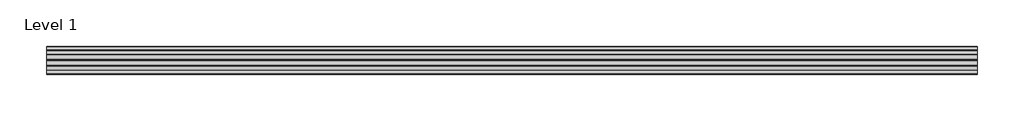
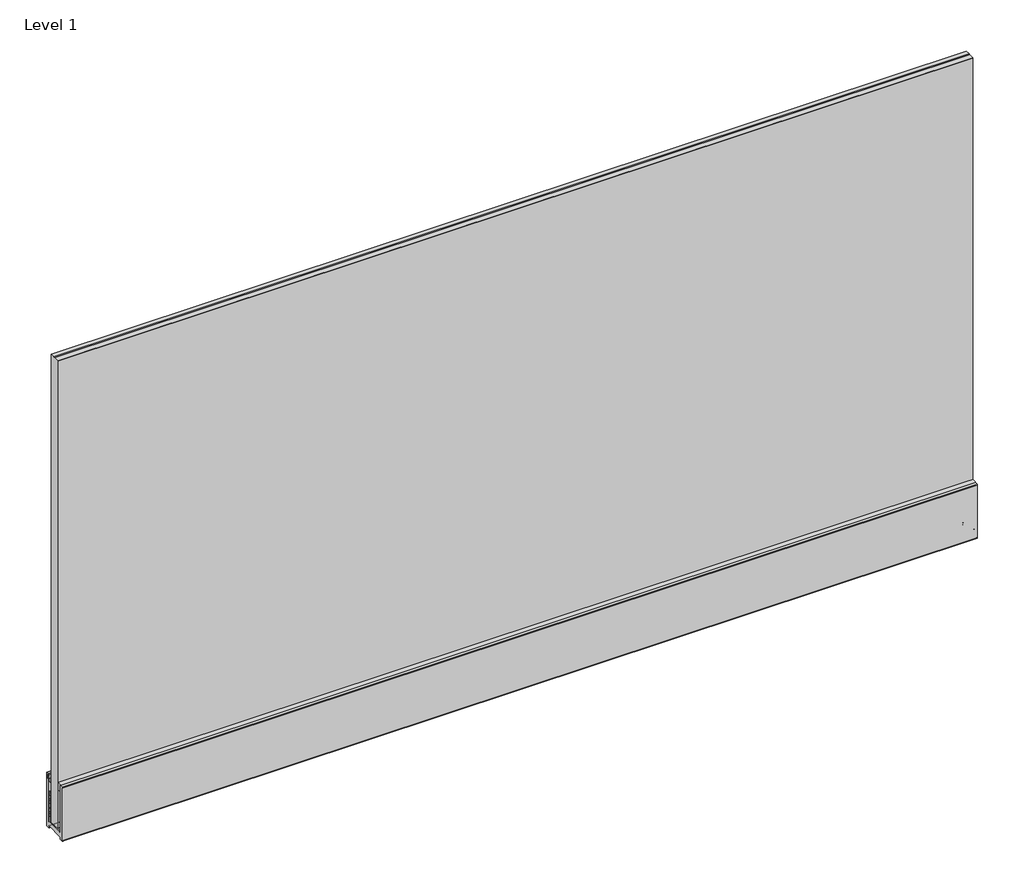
# One storey: 1 railing.
"""IFC4 building model written with IfcOpenShell, lengths in millimetres."""

import ifcopenshell
import ifcopenshell.guid

model = None  # the IFC model being written
_history = None  # IfcOwnerHistory: only IFC2X3 demands one
_inside = {}  # id of a spatial element -> (the spatial element, [elements in it])
_under = {}  # id of a project, library or spatial element -> (it, [spatial elements below it])
_declared = {}  # id of a project -> (the project, [libraries it declares])
_typed = {}  # id of a type object -> (the type object, [elements of that type])
_made_of = {}  # id of a material, layer set ... -> (it, [elements and type objects made of it])


def new_model(schema):
    """Start an empty IFC model of exactly this schema.

    Asked for "IFC4X3", IfcOpenShell would pick the latest addendum, in which some entities
    have other attributes; the version numbers below select the first issue.
    IFC2X3 requires an IfcOwnerHistory on every rooted entity: one is made here for all.
    """
    global model, _history
    if schema == "IFC4X3":
        model = ifcopenshell.file(schema_version=(4, 3, 0, 0))
    else:
        model = ifcopenshell.file(schema=schema)
    _inside.clear()
    _under.clear()
    _declared.clear()
    _typed.clear()
    _made_of.clear()
    _history = None
    if model.schema == "IFC2X3":
        org = make("IfcOrganization", Name="unknown")
        user = make(
            "IfcPersonAndOrganization",
            ThePerson=make("IfcPerson", FamilyName="unknown"),
            TheOrganization=org,
        )
        app = make(
            "IfcApplication",
            ApplicationDeveloper=org,
            Version="unknown",
            ApplicationFullName="unknown",
            ApplicationIdentifier="unknown",
        )
        _history = make(
            "IfcOwnerHistory",
            OwningUser=user,
            OwningApplication=app,
            ChangeAction="ADDED",
            CreationDate=0,
        )
    return model


def make(cls, **values):
    """One entity of the class cls with the attributes given. An attribute that is None is left unset."""
    return model.create_entity(
        cls, **{name: value for name, value in values.items() if value is not None}
    )


def rooted(cls, **values):
    """An entity with a GlobalId (a new one), such as an element, a storey or a relation."""
    return make(cls, GlobalId=ifcopenshell.guid.new(), OwnerHistory=_history, **values)


def si_unit(unit_type, name, prefix=None):
    """IfcSIUnit, for example si_unit("LENGTHUNIT", "METRE", prefix="MILLI")."""
    return make("IfcSIUnit", UnitType=unit_type, Prefix=prefix, Name=name)


def assignment(units):
    """IfcUnitAssignment: the units of a project."""
    return None if units is None else make("IfcUnitAssignment", Units=units)


def point(xyz):
    """IfcCartesianPoint."""
    return None if xyz is None else make("IfcCartesianPoint", Coordinates=xyz)


def direction(xyz):
    """IfcDirection."""
    return None if xyz is None else make("IfcDirection", DirectionRatios=xyz)


def frame(location, z_axis=None, x_axis=None):
    """IfcAxis2Placement3D, a coordinate frame: its origin and axes. An axis left out is left unset."""
    return make(
        "IfcAxis2Placement3D",
        Location=point(location),
        Axis=direction(z_axis),
        RefDirection=direction(x_axis),
    )


def frame_2d(location, x_axis=None):
    """IfcAxis2Placement2D, a coordinate frame in the plane: its origin and x axis."""
    return make(
        "IfcAxis2Placement2D", Location=point(location), RefDirection=direction(x_axis)
    )


def origin():
    """The frame at (0, 0, 0) with its axes left unset."""
    return frame((0.0, 0.0, 0.0))


def place(relative_to, where):
    """IfcLocalPlacement: puts the frame where relative to a parent placement (None: the world)."""
    return make(
        "IfcLocalPlacement", PlacementRelTo=relative_to, RelativePlacement=where
    )


def context(
    kind, dimensions, precision=None, world=None, true_north=None, identifier=None
):
    """IfcGeometricRepresentationContext, for example the 3D "Model" context."""
    return make(
        "IfcGeometricRepresentationContext",
        ContextIdentifier=identifier,
        ContextType=kind,
        CoordinateSpaceDimension=dimensions,
        Precision=precision,
        WorldCoordinateSystem=world,
        TrueNorth=true_north,
    )


def project(units=None, contexts=None):
    """IfcProject with its units and contexts."""
    return rooted(
        "IfcProject",
        Name="project",
        RepresentationContexts=contexts,
        UnitsInContext=assignment(units),
    )


def spatial(cls, under=None, at=None, **own):
    """A site, building, storey or space (cls), placed at a placement, below another one or the project."""
    s = rooted(cls, ObjectPlacement=at, **own)
    if under is not None:
        _under.setdefault(under.id(), (under, []))[1].append(s)
    return s


def polyline(points):
    """IfcPolyline through the points."""
    return make("IfcPolyline", Points=[point(p) for p in points])


def circle_curve(where, radius):
    """IfcCircle in the frame where."""
    return make("IfcCircle", Position=where, Radius=radius)


def trimmed(basis, trim1, trim2, sense, master):
    """IfcTrimmedCurve: the piece of a basis curve between two trims."""
    return make(
        "IfcTrimmedCurve",
        BasisCurve=basis,
        Trim1=trim1,
        Trim2=trim2,
        SenseAgreement=sense,
        MasterRepresentation=master,
    )


def segment(curve, same_sense, transition):
    """IfcCompositeCurveSegment."""
    return make(
        "IfcCompositeCurveSegment",
        Transition=transition,
        SameSense=same_sense,
        ParentCurve=curve,
    )


def composite_curve(segments, self_intersect=None):
    """IfcCompositeCurve: segments joined end to end."""
    return make("IfcCompositeCurve", Segments=segments, SelfIntersect=self_intersect)


def outline(outer, holes=None, kind="AREA"):
    """IfcArbitraryClosedProfileDef: a profile drawn as a closed curve; with holes, ...WithVoids."""
    if holes is None:
        return make("IfcArbitraryClosedProfileDef", ProfileType=kind, OuterCurve=outer)
    return make(
        "IfcArbitraryProfileDefWithVoids",
        ProfileType=kind,
        OuterCurve=outer,
        InnerCurves=holes,
    )


def extrude(swept, where, along, depth):
    """IfcExtrudedAreaSolid: the profile swept, set in the frame where, extruded along a direction by depth."""
    return make(
        "IfcExtrudedAreaSolid",
        SweptArea=swept,
        Position=where,
        ExtrudedDirection=direction(along),
        Depth=depth,
    )


def shape(context_of_items, identifier, shape_type, items):
    """IfcShapeRepresentation: the items that make up one representation, for example the "Body"."""
    return make(
        "IfcShapeRepresentation",
        ContextOfItems=context_of_items,
        RepresentationIdentifier=identifier,
        RepresentationType=shape_type,
        Items=items,
    )


def source(mapping_origin, context_of_items, identifier, shape_type, items):
    """IfcRepresentationMap: a shape defined once, which mapped items show again and again."""
    return make(
        "IfcRepresentationMap",
        MappingOrigin=mapping_origin,
        MappedRepresentation=shape(context_of_items, identifier, shape_type, items),
    )


def transform(
    local_origin,
    x_axis=None,
    y_axis=None,
    z_axis=None,
    scale=None,
    scale2=None,
    scale3=None,
    uniform=True,
):
    """IfcCartesianTransformationOperator3D, or its non-uniform kind. x_axis, y_axis, z_axis: its Axis1, 2, 3."""
    if uniform:
        return make(
            "IfcCartesianTransformationOperator3D",
            Axis1=direction(x_axis),
            Axis2=direction(y_axis),
            LocalOrigin=point(local_origin),
            Scale=scale,
            Axis3=direction(z_axis),
        )
    return make(
        "IfcCartesianTransformationOperator3DnonUniform",
        Axis1=direction(x_axis),
        Axis2=direction(y_axis),
        LocalOrigin=point(local_origin),
        Scale=scale,
        Axis3=direction(z_axis),
        Scale2=scale2,
        Scale3=scale3,
    )


def mapped(mapping_source, mapping_target):
    """IfcMappedItem: shows the shape of a source again, moved by a transform."""
    return make(
        "IfcMappedItem", MappingSource=mapping_source, MappingTarget=mapping_target
    )


def made_of(thing, what):
    """Note that an element or type object is made of a material, layer set ...; save() writes the relation."""
    if what is not None:
        _made_of.setdefault(what.id(), (what, []))[1].append(thing)
    return thing


def element(
    cls,
    number,
    at=None,
    inside=None,
    cuts=None,
    type_object=None,
    material=None,
    context=None,
    identifier="Body",
    shape_type=None,
    held_by="IfcProductDefinitionShape",
    body=None,
    shapes=None,
    **own,
):
    """One element of the class cls, such as IfcWall. Its Tag is "e" and its number.

    at: its placement. inside: the storey or other place that contains it. cuts: it is an
    opening in that element (IfcRelVoidsElement). A single representation is given by context,
    identifier, shape_type and body (its items); several are given by shapes. held_by: the class
    of the entity that holds the representations. save() writes the other relations.
    """
    e = rooted(cls, Tag="e%d" % number, ObjectPlacement=at, **own)
    if body is not None:
        shapes = [shape(context, identifier, shape_type, body)]
    if shapes is not None:
        e.Representation = make(held_by, Representations=shapes)
    if inside is not None:
        _inside.setdefault(inside.id(), (inside, []))[1].append(e)
    if cuts is not None:
        rooted(
            "IfcRelVoidsElement", RelatingBuildingElement=cuts, RelatedOpeningElement=e
        )
    if type_object is not None:
        _typed.setdefault(type_object.id(), (type_object, []))[1].append(e)
    return made_of(e, material)


def aggregate(whole, parts):
    """IfcRelAggregates: a whole, such as a stair, and the parts it consists of."""
    return rooted("IfcRelAggregates", RelatingObject=whole, RelatedObjects=parts)


def save(model, path):
    """Write the relations noted so far, then the file.

    IfcRelAggregates (storeys below a building ...), IfcRelContainedInSpatialStructure (elements
    in a storey), IfcRelDefinesByType, IfcRelAssociatesMaterial and IfcRelDeclares: one each for
    every whole, place, type object, material and project.
    """
    for whole, parts in _under.values():
        aggregate(whole, parts)
    for where, things in _inside.values():
        rooted(
            "IfcRelContainedInSpatialStructure",
            RelatedElements=things,
            RelatingStructure=where,
        )
    for kind, things in _typed.values():
        rooted("IfcRelDefinesByType", RelatedObjects=things, RelatingType=kind)
    for what, things in _made_of.values():
        rooted("IfcRelAssociatesMaterial", RelatedObjects=things, RelatingMaterial=what)
    for by, libraries in _declared.values():
        rooted("IfcRelDeclares", RelatingContext=by, RelatedDefinitions=libraries)
    model.write(path)


def railing_e39ed729(model_context):
    return source(origin(), model_context, "Body", "SweptSolid", [
        extrude(outline(polyline([(5729.5907209, 19.75), (5729.5907209, 1099.0), (5730.5907209, 1100.0), (5740.5907209, 1100.0), (5741.5907209, 1099.0), (5743.1407209, 1099.0), (5744.1407209, 1100.0), (5754.0907209, 1100.0), (5755.0907209, 1099.0), (5755.0907209, 19.75), (5754.0907209, 18.75), (5744.1407209, 18.75), (5743.1407209, 19.75), (5741.5907209, 19.75), (5740.5907209, 18.75), (5730.5907209, 18.75), (5729.5907209, 19.75)])), frame((-6622.4840845, 0.0, 0.0), z_axis=(1.0, 0.0, 0.0), x_axis=(0.0, 1.0, 0.0)), (0.0, 0.0, 1.0), 2000.0),
        extrude(outline(composite_curve([segment(trimmed(circle_curve(frame_2d((5771.3407209, 1.0)), 1.0), [point((5772.3407209, 1.0))], [point((5771.3407209, 0.0))], False, "CARTESIAN"), True, "CONTINUOUS"), segment(polyline([(5771.3407209, 0.0), (5764.3407209, 0.0)]), True, "CONTINUOUS"), segment(trimmed(circle_curve(frame_2d((5764.3407209, 0.5)), 0.5), [point((5764.3407209, 0.0))], [point((5763.8407209, 0.5))], False, "CARTESIAN"), True, "CONTINUOUS"), segment(polyline([(5763.8407209, 0.5), (5763.8407209, 4.0)]), True, "CONTINUOUS"), segment(trimmed(circle_curve(frame_2d((5762.8407209, 4.0)), 1.0), [point((5763.8407209, 4.0))], [point((5762.8407209, 5.0))], True, "CARTESIAN"), True, "CONTINUOUS"), segment(polyline([(5762.8407209, 5.0), (5721.8407209, 5.0)]), True, "CONTINUOUS"), segment(trimmed(circle_curve(frame_2d((5721.8407209, 4.0)), 1.0), [point((5721.8407209, 5.0))], [point((5720.8407209, 4.0))], True, "CARTESIAN"), True, "CONTINUOUS"), segment(polyline([(5720.8407209, 4.0), (5720.8407209, 0.5)]), True, "CONTINUOUS"), segment(trimmed(circle_curve(frame_2d((5720.3407209, 0.5)), 0.5), [point((5720.8407209, 0.5))], [point((5720.3407209, 0.0))], False, "CARTESIAN"), True, "CONTINUOUS"), segment(polyline([(5720.3407209, 0.0), (5713.3407209, 0.0)]), True, "CONTINUOUS"), segment(trimmed(circle_curve(frame_2d((5713.3407209, 1.0)), 1.0), [point((5713.3407209, 0.0))], [point((5712.3407209, 1.0))], False, "CARTESIAN"), True, "CONTINUOUS"), segment(polyline([(5712.3407209, 1.0), (5712.3407209, 123.0)]), True, "CONTINUOUS"), segment(trimmed(circle_curve(frame_2d((5713.3407209, 123.0)), 1.0), [point((5712.3407209, 123.0))], [point((5713.3407209, 124.0))], False, "CARTESIAN"), True, "CONTINUOUS"), segment(polyline([(5713.3407209, 124.0), (5721.3407209, 124.0), (5721.3407209, 15.5)]), True, "CONTINUOUS"), segment(trimmed(circle_curve(frame_2d((5721.8407209, 15.5)), 0.5), [point((5721.3407209, 15.5))], [point((5721.8407209, 15.0))], True, "CARTESIAN"), True, "CONTINUOUS"), segment(polyline([(5721.8407209, 15.0), (5762.8407209, 15.0)]), True, "CONTINUOUS"), segment(trimmed(circle_curve(frame_2d((5762.8407209, 15.5)), 0.5), [point((5762.8407209, 15.0))], [point((5763.3407209, 15.5))], True, "CARTESIAN"), True, "CONTINUOUS"), segment(polyline([(5763.3407209, 15.5), (5763.3407209, 114.25)]), True, "CONTINUOUS"), segment(trimmed(circle_curve(frame_2d((5763.8407209, 114.25)), 0.5), [point((5763.3407209, 114.25))], [point((5764.3407209, 114.25))], False, "CARTESIAN"), True, "CONTINUOUS"), segment(polyline([(5764.3407209, 114.25), (5764.3407209, 112.55), (5767.1407209, 112.55), (5767.1407209, 121.45), (5764.3407209, 121.45), (5764.3407209, 119.75)]), True, "CONTINUOUS"), segment(trimmed(circle_curve(frame_2d((5763.8407209, 119.75)), 0.5), [point((5764.3407209, 119.75))], [point((5763.3407209, 119.75))], False, "CARTESIAN"), True, "CONTINUOUS"), segment(polyline([(5763.3407209, 119.75), (5763.3407209, 123.5)]), True, "CONTINUOUS"), segment(trimmed(circle_curve(frame_2d((5763.8407209, 123.5)), 0.5), [point((5763.3407209, 123.5))], [point((5763.8407209, 124.0))], False, "CARTESIAN"), True, "CONTINUOUS"), segment(polyline([(5763.8407209, 124.0), (5771.3407209, 124.0)]), True, "CONTINUOUS"), segment(trimmed(circle_curve(frame_2d((5771.3407209, 123.0)), 1.0), [point((5771.3407209, 124.0))], [point((5772.3407209, 123.0))], False, "CARTESIAN"), True, "CONTINUOUS"), segment(polyline([(5772.3407209, 123.0), (5772.3407209, 1.0)]), True, "CONTINUOUS")], self_intersect=False)), frame((-6622.4840845, 0.0, 0.0), z_axis=(1.0, 0.0, 0.0), x_axis=(0.0, 1.0, 0.0)), (0.0, 0.0, 1.0), 2000.0),
        extrude(outline(composite_curve([segment(polyline([(5756.06572, 18.2499983), (5756.06572, 81.1999983), (5757.8143268, 84.6972119)]), True, "CONTINUOUS"), segment(trimmed(circle_curve(frame_2d((5758.708754, 84.2499983)), 1.0), [point((5757.8143268, 84.6972119))], [point((5758.708754, 85.2499983))], False, "CARTESIAN"), True, "CONTINUOUS"), segment(polyline([(5758.708754, 85.2499983), (5762.09072, 85.2499983)]), True, "CONTINUOUS"), segment(trimmed(circle_curve(frame_2d((5762.09072, 84.2499983)), 1.0), [point((5762.09072, 85.2499983))], [point((5763.09072, 84.2499983))], False, "CARTESIAN"), True, "CONTINUOUS"), segment(polyline([(5763.09072, 84.2499983), (5763.09072, 81.2499983)]), True, "CONTINUOUS"), segment(trimmed(circle_curve(frame_2d((5762.09072, 81.2499983)), 1.0), [point((5763.09072, 81.2499983))], [point((5762.09072, 80.2499983))], False, "CARTESIAN"), True, "CONTINUOUS"), segment(polyline([(5762.09072, 80.2499983), (5760.09072, 80.2499983), (5760.09072, 75.2499983), (5762.09072, 75.2499983)]), True, "CONTINUOUS"), segment(trimmed(circle_curve(frame_2d((5762.09072, 74.2499983)), 1.0), [point((5762.09072, 75.2499983))], [point((5763.09072, 74.2499983))], False, "CARTESIAN"), True, "CONTINUOUS"), segment(polyline([(5763.09072, 74.2499983), (5763.09072, 71.2499983)]), True, "CONTINUOUS"), segment(trimmed(circle_curve(frame_2d((5762.09072, 71.2499983)), 1.0), [point((5763.09072, 71.2499983))], [point((5762.09072, 70.2499983))], False, "CARTESIAN"), True, "CONTINUOUS"), segment(polyline([(5762.09072, 70.2499983), (5760.09072, 70.2499983), (5760.09072, 65.2499983), (5762.09072, 65.2499983)]), True, "CONTINUOUS"), segment(trimmed(circle_curve(frame_2d((5762.09072, 64.2499983)), 1.0), [point((5762.09072, 65.2499983))], [point((5763.09072, 64.2499983))], False, "CARTESIAN"), True, "CONTINUOUS"), segment(polyline([(5763.09072, 64.2499983), (5763.09072, 61.2499983)]), True, "CONTINUOUS"), segment(trimmed(circle_curve(frame_2d((5762.09072, 61.2499983)), 1.0), [point((5763.09072, 61.2499983))], [point((5762.09072, 60.2499983))], False, "CARTESIAN"), True, "CONTINUOUS"), segment(polyline([(5762.09072, 60.2499983), (5760.09072, 60.2499983), (5760.09072, 55.2499983), (5762.09072, 55.2499983)]), True, "CONTINUOUS"), segment(trimmed(circle_curve(frame_2d((5762.09072, 54.2499983)), 1.0), [point((5762.09072, 55.2499983))], [point((5763.09072, 54.2499983))], False, "CARTESIAN"), True, "CONTINUOUS"), segment(polyline([(5763.09072, 54.2499983), (5763.09072, 51.2499983)]), True, "CONTINUOUS"), segment(trimmed(circle_curve(frame_2d((5762.09072, 51.2499983)), 1.0), [point((5763.09072, 51.2499983))], [point((5762.09072, 50.2499983))], False, "CARTESIAN"), True, "CONTINUOUS"), segment(polyline([(5762.09072, 50.2499983), (5760.09072, 50.2499983), (5760.09072, 45.2499983), (5762.09072, 45.2499983)]), True, "CONTINUOUS"), segment(trimmed(circle_curve(frame_2d((5762.09072, 44.2499983)), 1.0), [point((5762.09072, 45.2499983))], [point((5763.09072, 44.2499983))], False, "CARTESIAN"), True, "CONTINUOUS"), segment(polyline([(5763.09072, 44.2499983), (5763.09072, 41.2499983)]), True, "CONTINUOUS"), segment(trimmed(circle_curve(frame_2d((5762.09072, 41.2499983)), 1.0), [point((5763.09072, 41.2499983))], [point((5762.09072, 40.2499983))], False, "CARTESIAN"), True, "CONTINUOUS"), segment(polyline([(5762.09072, 40.2499983), (5760.09072, 40.2499983), (5760.09072, 35.2499983), (5762.09072, 35.2499983)]), True, "CONTINUOUS"), segment(trimmed(circle_curve(frame_2d((5762.09072, 34.2499983)), 1.0), [point((5762.09072, 35.2499983))], [point((5763.09072, 34.2499983))], False, "CARTESIAN"), True, "CONTINUOUS"), segment(polyline([(5763.09072, 34.2499983), (5763.09072, 31.2499983)]), True, "CONTINUOUS"), segment(trimmed(circle_curve(frame_2d((5762.09072, 31.2499983)), 1.0), [point((5763.09072, 31.2499983))], [point((5762.09072, 30.2499983))], False, "CARTESIAN"), True, "CONTINUOUS"), segment(polyline([(5762.09072, 30.2499983), (5760.09072, 30.2499983), (5760.09072, 25.2499983), (5762.09072, 25.2499983)]), True, "CONTINUOUS"), segment(trimmed(circle_curve(frame_2d((5762.09072, 24.2499983)), 1.0), [point((5762.09072, 25.2499983))], [point((5763.09072, 24.2499983))], False, "CARTESIAN"), True, "CONTINUOUS"), segment(polyline([(5763.09072, 24.2499983), (5763.09072, 16.2499983)]), True, "CONTINUOUS"), segment(trimmed(circle_curve(frame_2d((5762.09072, 16.2499983)), 1.0), [point((5763.09072, 16.2499983))], [point((5762.09072, 15.2499983))], False, "CARTESIAN"), True, "CONTINUOUS"), segment(polyline([(5762.09072, 15.2499983), (5722.59072, 15.2499983)]), True, "CONTINUOUS"), segment(trimmed(circle_curve(frame_2d((5722.59072, 16.2499983)), 1.0), [point((5722.59072, 15.2499983))], [point((5721.59072, 16.2499983))], False, "CARTESIAN"), True, "CONTINUOUS"), segment(polyline([(5721.59072, 16.2499983), (5721.59072, 17.2499983)]), True, "CONTINUOUS"), segment(trimmed(circle_curve(frame_2d((5722.59072, 17.2499983)), 1.0), [point((5721.59072, 17.2499983))], [point((5722.59072, 18.2499983))], False, "CARTESIAN"), True, "CONTINUOUS"), segment(polyline([(5722.59072, 18.2499983), (5756.06572, 18.2499983)]), True, "CONTINUOUS")], self_intersect=False)), frame((-6622.4840845, 0.0, 0.0), z_axis=(1.0, 0.0, 0.0), x_axis=(0.0, 1.0, 0.0)), (0.0, 0.0, 1.0), 2000.0),
        extrude(outline(composite_curve([segment(polyline([(5763.3407209, 124.0), (5763.3407209, 109.7815722), (5757.44072, 108.8815407), (5755.94072, 110.9673162), (5756.94072, 112.1895362), (5755.94072, 113.5228695), (5756.94072, 114.7450895), (5755.94072, 116.0784228), (5756.94072, 117.3006428), (5755.94072, 118.6339762), (5756.94072, 119.8561962), (5755.94072, 121.1895295), (5756.94072, 122.5479161), (5755.44072, 124.3112017), (5755.44072, 126.1660696)]), True, "CONTINUOUS"), segment(trimmed(circle_curve(frame_2d((5754.5648128, 87.8576514)), 38.3184305), [point((5755.44072, 126.1660696))], [point((5763.1537692, 125.2010838))], False, "CARTESIAN"), True, "CONTINUOUS"), segment(trimmed(circle_curve(frame_2d((5760.9123005, 115.4555301)), 10.0), [point((5763.1537692, 125.2010838))], [point((5764.3336403, 124.8520418))], False, "CARTESIAN"), True, "CONTINUOUS"), segment(trimmed(circle_curve(frame_2d((5755.1757563, 99.7004438)), 26.7669521), [point((5764.3336403, 124.8520418))], [point((5766.400786, 124.0))], False, "CARTESIAN"), True, "CONTINUOUS"), segment(polyline([(5766.400786, 124.0), (5763.3407209, 124.0)]), True, "CONTINUOUS")], self_intersect=False)), frame((-6622.4840845, 0.0, 0.0), z_axis=(1.0, 0.0, 0.0), x_axis=(0.0, 1.0, 0.0)), (0.0, 0.0, 1.0), 2000.0),
        extrude(outline(composite_curve([segment(polyline([(5720.3407209, 124.0), (5719.3342495, 124.0)]), True, "CONTINUOUS"), segment(trimmed(circle_curve(frame_2d((5729.9337142, 98.9230943)), 27.2249858), [point((5719.3342495, 124.0))], [point((5731.44072, 126.1063389))], False, "CARTESIAN"), True, "CONTINUOUS"), segment(polyline([(5731.44072, 126.1063389), (5731.44072, 124.2612017), (5729.8082955, 122.4979161), (5730.9197048, 121.1395295), (5729.9197048, 119.8061962), (5730.9197048, 118.5839762), (5729.9197048, 117.2506428), (5730.9197048, 116.0284228), (5729.9197048, 114.6950895), (5730.9197048, 113.4728695), (5729.9197048, 112.1395362), (5730.9197048, 110.9173162), (5729.1331509, 108.5352444), (5720.3407209, 109.917316), (5720.3407209, 124.0)]), True, "CONTINUOUS")], self_intersect=False)), frame((-6622.4840845, 0.0, 0.0), z_axis=(1.0, 0.0, 0.0), x_axis=(0.0, 1.0, 0.0)), (0.0, 0.0, 1.0), 2000.0),
    ])


model = new_model("IFC4")

# Units and contexts
model_context = context("Model", 3, world=origin())
ifc_project = project(units=[si_unit("LENGTHUNIT", "METRE", prefix="MILLI")], contexts=[model_context])

# Site, building, storey
site = spatial("IfcSite", under=ifc_project)
building = spatial("IfcBuilding", under=site)
storey = spatial("IfcBuildingStorey", under=building, Name="Level 1", Elevation=0.0)

# Railing
placement = place(None, origin())
railing_shape = railing_e39ed729(model_context)
element("IfcRailing", 1, ObjectType="Extrusal-F100-Multidões", at=placement, inside=storey, context=model_context, shape_type="MappedRepresentation", body=[
    mapped(railing_shape, transform((0.0, 0.0, 0.0), x_axis=(1.0, 0.0, 0.0), y_axis=(0.0, 1.0, 0.0), z_axis=(0.0, 0.0, 1.0))),
])

save(model, "model.ifc")
